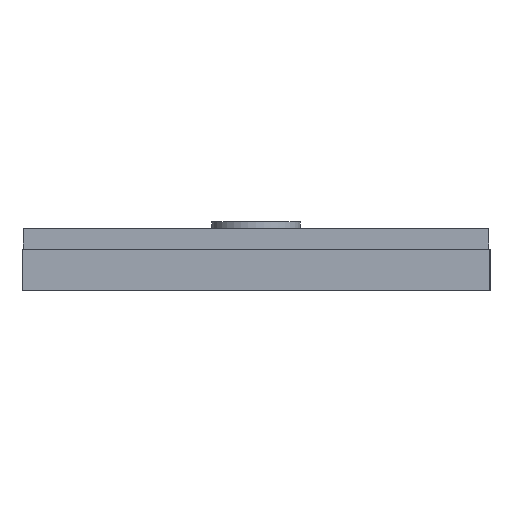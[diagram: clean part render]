
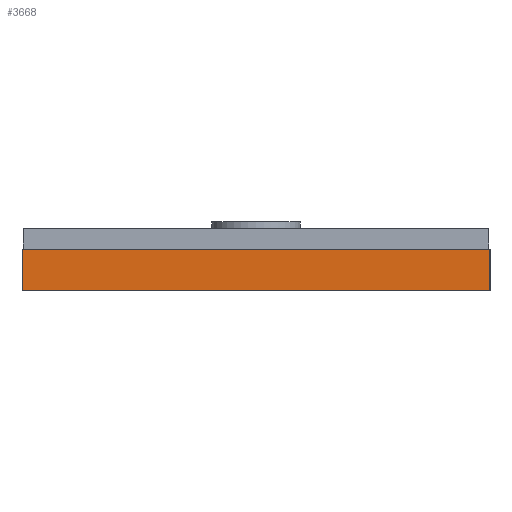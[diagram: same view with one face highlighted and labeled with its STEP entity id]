
A CAD part, left-side view. The second image highlights one B-rep face of the part: STEP entity #3668.
In plain terms, the highlighted planar face has unit normal (-1, 0, 0).
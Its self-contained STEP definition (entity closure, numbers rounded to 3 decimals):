
#856 = PLANE('',#857);
#857 = AXIS2_PLACEMENT_3D('',#858,#859,#860);
#858 = CARTESIAN_POINT('',(-83.4,-68.4,170.));
#859 = DIRECTION('',(0.,0.,1.));
#860 = DIRECTION('',(1.,0.,0.));
#1027 = PLANE('',#1028);
#1028 = AXIS2_PLACEMENT_3D('',#1029,#1030,#1031);
#1029 = CARTESIAN_POINT('',(-83.4,-68.4,158.));
#1030 = DIRECTION('',(0.,1.,0.));
#1031 = DIRECTION('',(0.,0.,1.));
#2723 = VERTEX_POINT('',#2724);
#2724 = CARTESIAN_POINT('',(-83.4,68.4,170.));
#2740 = PLANE('',#2741);
#2741 = AXIS2_PLACEMENT_3D('',#2742,#2743,#2744);
#2742 = CARTESIAN_POINT('',(-83.4,68.4,158.));
#2743 = DIRECTION('',(0.,1.,0.));
#2744 = DIRECTION('',(0.,0.,1.));
#2752 = EDGE_CURVE('',#2753,#2723,#2755,.T.);
#2753 = VERTEX_POINT('',#2754);
#2754 = CARTESIAN_POINT('',(-83.4,-68.4,170.));
#2755 = SURFACE_CURVE('',#2756,(#2760,#2767),.PCURVE_S1.);
#2756 = LINE('',#2757,#2758);
#2757 = CARTESIAN_POINT('',(-83.4,-68.4,170.));
#2758 = VECTOR('',#2759,1.);
#2759 = DIRECTION('',(0.,1.,0.));
#2760 = PCURVE('',#856,#2761);
#2761 = DEFINITIONAL_REPRESENTATION('',(#2762),#2766);
#2762 = LINE('',#2763,#2764);
#2763 = CARTESIAN_POINT('',(0.,0.));
#2764 = VECTOR('',#2765,1.);
#2765 = DIRECTION('',(0.,1.));
#2766 = ( GEOMETRIC_REPRESENTATION_CONTEXT(2) 
PARAMETRIC_REPRESENTATION_CONTEXT() REPRESENTATION_CONTEXT('2D SPACE',''
  ) );
#2767 = PCURVE('',#2768,#2773);
#2768 = PLANE('',#2769);
#2769 = AXIS2_PLACEMENT_3D('',#2770,#2771,#2772);
#2770 = CARTESIAN_POINT('',(-83.4,-68.4,158.));
#2771 = DIRECTION('',(1.,0.,0.));
#2772 = DIRECTION('',(0.,0.,1.));
#2773 = DEFINITIONAL_REPRESENTATION('',(#2774),#2778);
#2774 = LINE('',#2775,#2776);
#2775 = CARTESIAN_POINT('',(12.,0.));
#2776 = VECTOR('',#2777,1.);
#2777 = DIRECTION('',(0.,-1.));
#2778 = ( GEOMETRIC_REPRESENTATION_CONTEXT(2) 
PARAMETRIC_REPRESENTATION_CONTEXT() REPRESENTATION_CONTEXT('2D SPACE',''
  ) );
#2884 = VERTEX_POINT('',#2885);
#2885 = CARTESIAN_POINT('',(-83.4,-68.4,158.));
#2899 = PLANE('',#2900);
#2900 = AXIS2_PLACEMENT_3D('',#2901,#2902,#2903);
#2901 = CARTESIAN_POINT('',(-83.4,-68.4,158.));
#2902 = DIRECTION('',(0.,0.,1.));
#2903 = DIRECTION('',(1.,0.,0.));
#2911 = EDGE_CURVE('',#2884,#2753,#2912,.T.);
#2912 = SURFACE_CURVE('',#2913,(#2917,#2924),.PCURVE_S1.);
#2913 = LINE('',#2914,#2915);
#2914 = CARTESIAN_POINT('',(-83.4,-68.4,158.));
#2915 = VECTOR('',#2916,1.);
#2916 = DIRECTION('',(0.,0.,1.));
#2917 = PCURVE('',#1027,#2918);
#2918 = DEFINITIONAL_REPRESENTATION('',(#2919),#2923);
#2919 = LINE('',#2920,#2921);
#2920 = CARTESIAN_POINT('',(0.,0.));
#2921 = VECTOR('',#2922,1.);
#2922 = DIRECTION('',(1.,0.));
#2923 = ( GEOMETRIC_REPRESENTATION_CONTEXT(2) 
PARAMETRIC_REPRESENTATION_CONTEXT() REPRESENTATION_CONTEXT('2D SPACE',''
  ) );
#2924 = PCURVE('',#2768,#2925);
#2925 = DEFINITIONAL_REPRESENTATION('',(#2926),#2930);
#2926 = LINE('',#2927,#2928);
#2927 = CARTESIAN_POINT('',(0.,0.));
#2928 = VECTOR('',#2929,1.);
#2929 = DIRECTION('',(1.,0.));
#2930 = ( GEOMETRIC_REPRESENTATION_CONTEXT(2) 
PARAMETRIC_REPRESENTATION_CONTEXT() REPRESENTATION_CONTEXT('2D SPACE',''
  ) );
#3575 = VERTEX_POINT('',#3576);
#3576 = CARTESIAN_POINT('',(-83.4,68.4,158.));
#3599 = EDGE_CURVE('',#3575,#2723,#3600,.T.);
#3600 = SURFACE_CURVE('',#3601,(#3605,#3612),.PCURVE_S1.);
#3601 = LINE('',#3602,#3603);
#3602 = CARTESIAN_POINT('',(-83.4,68.4,158.));
#3603 = VECTOR('',#3604,1.);
#3604 = DIRECTION('',(0.,0.,1.));
#3605 = PCURVE('',#2740,#3606);
#3606 = DEFINITIONAL_REPRESENTATION('',(#3607),#3611);
#3607 = LINE('',#3608,#3609);
#3608 = CARTESIAN_POINT('',(0.,0.));
#3609 = VECTOR('',#3610,1.);
#3610 = DIRECTION('',(1.,0.));
#3611 = ( GEOMETRIC_REPRESENTATION_CONTEXT(2) 
PARAMETRIC_REPRESENTATION_CONTEXT() REPRESENTATION_CONTEXT('2D SPACE',''
  ) );
#3612 = PCURVE('',#2768,#3613);
#3613 = DEFINITIONAL_REPRESENTATION('',(#3614),#3618);
#3614 = LINE('',#3615,#3616);
#3615 = CARTESIAN_POINT('',(0.,-136.8));
#3616 = VECTOR('',#3617,1.);
#3617 = DIRECTION('',(1.,0.));
#3618 = ( GEOMETRIC_REPRESENTATION_CONTEXT(2) 
PARAMETRIC_REPRESENTATION_CONTEXT() REPRESENTATION_CONTEXT('2D SPACE',''
  ) );
#3668 = ADVANCED_FACE('',(#3669),#2768,.F.);
#3669 = FACE_BOUND('',#3670,.F.);
#3670 = EDGE_LOOP('',(#3671,#3672,#3693,#3694));
#3671 = ORIENTED_EDGE('',*,*,#2911,.F.);
#3672 = ORIENTED_EDGE('',*,*,#3673,.T.);
#3673 = EDGE_CURVE('',#2884,#3575,#3674,.T.);
#3674 = SURFACE_CURVE('',#3675,(#3679,#3686),.PCURVE_S1.);
#3675 = LINE('',#3676,#3677);
#3676 = CARTESIAN_POINT('',(-83.4,-68.4,158.));
#3677 = VECTOR('',#3678,1.);
#3678 = DIRECTION('',(0.,1.,0.));
#3679 = PCURVE('',#2768,#3680);
#3680 = DEFINITIONAL_REPRESENTATION('',(#3681),#3685);
#3681 = LINE('',#3682,#3683);
#3682 = CARTESIAN_POINT('',(0.,0.));
#3683 = VECTOR('',#3684,1.);
#3684 = DIRECTION('',(0.,-1.));
#3685 = ( GEOMETRIC_REPRESENTATION_CONTEXT(2) 
PARAMETRIC_REPRESENTATION_CONTEXT() REPRESENTATION_CONTEXT('2D SPACE',''
  ) );
#3686 = PCURVE('',#2899,#3687);
#3687 = DEFINITIONAL_REPRESENTATION('',(#3688),#3692);
#3688 = LINE('',#3689,#3690);
#3689 = CARTESIAN_POINT('',(0.,0.));
#3690 = VECTOR('',#3691,1.);
#3691 = DIRECTION('',(0.,1.));
#3692 = ( GEOMETRIC_REPRESENTATION_CONTEXT(2) 
PARAMETRIC_REPRESENTATION_CONTEXT() REPRESENTATION_CONTEXT('2D SPACE',''
  ) );
#3693 = ORIENTED_EDGE('',*,*,#3599,.T.);
#3694 = ORIENTED_EDGE('',*,*,#2752,.F.);
